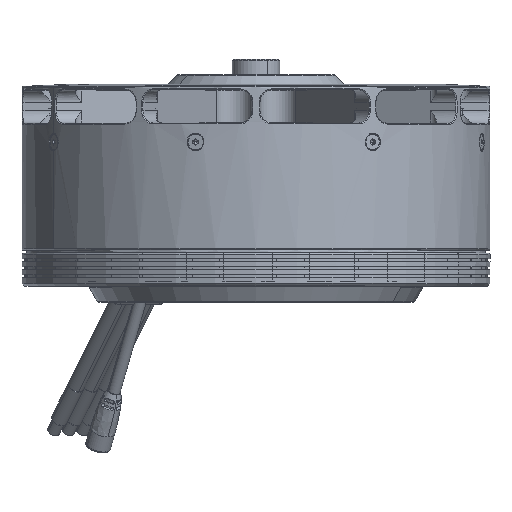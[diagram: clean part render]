
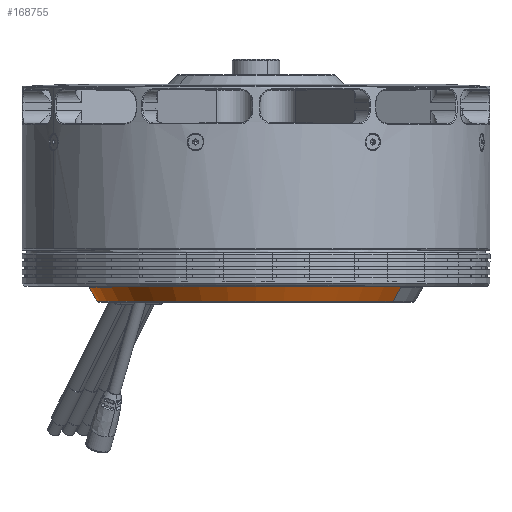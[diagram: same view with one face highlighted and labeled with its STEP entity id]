
A CAD part, top view. The second image highlights one B-rep face of the part: STEP entity #168755.
In plain terms, the highlighted conical face has half-angle 30 degrees and reference radius 50.144 mm.
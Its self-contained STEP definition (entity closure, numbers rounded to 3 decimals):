
#14267 = LINE ( 'NONE', #155658, #96635 ) ;
#15190 = DIRECTION ( 'NONE',  ( 0., 1., 0. ) ) ;
#18799 = EDGE_CURVE ( 'NONE', #30190, #54467, #53178, .T. ) ;
#29120 = DIRECTION ( 'NONE',  ( -0.433, 0.866, -0.25 ) ) ;
#30190 = VERTEX_POINT ( 'NONE', #30930 ) ;
#30930 = CARTESIAN_POINT ( 'NONE',  ( 43.426, -8.45, 25.072 ) ) ;
#31768 = EDGE_CURVE ( 'NONE', #30190, #94652, #14267, .T. ) ;
#33190 = AXIS2_PLACEMENT_3D ( 'NONE', #72880, #170754, #88474 ) ;
#49754 = CIRCLE ( 'NONE', #33190, 52.742 ) ;
#53178 = CIRCLE ( 'NONE', #186111, 50.144 ) ;
#54467 = VERTEX_POINT ( 'NONE', #130547 ) ;
#59154 = CARTESIAN_POINT ( 'NONE',  ( -43.426, -8.45, -25.072 ) ) ;
#62208 = LINE ( 'NONE', #59154, #150370 ) ;
#72880 = CARTESIAN_POINT ( 'NONE',  ( 0., -3.95, 0. ) ) ;
#75504 = DIRECTION ( 'NONE',  ( 0.433, 0.866, 0.25 ) ) ;
#77387 = ORIENTED_EDGE ( 'NONE', *, *, #97509, .T. ) ;
#86698 = EDGE_CURVE ( 'NONE', #54467, #120813, #62208, .T. ) ;
#88474 = DIRECTION ( 'NONE',  ( 0.866, 0., 0.5 ) ) ;
#94652 = VERTEX_POINT ( 'NONE', #192057 ) ;
#95097 = CONICAL_SURFACE ( 'NONE', #121688, 50.144, 0.524 ) ;
#96635 = VECTOR ( 'NONE', #75504, 1000. ) ;
#97509 = EDGE_CURVE ( 'NONE', #94652, #120813, #49754, .T. ) ;
#100206 = ORIENTED_EDGE ( 'NONE', *, *, #86698, .F. ) ;
#101035 = DIRECTION ( 'NONE',  ( -0.866, 0., -0.5 ) ) ;
#109847 = DIRECTION ( 'NONE',  ( 0.866, 0., 0.5 ) ) ;
#115771 = ORIENTED_EDGE ( 'NONE', *, *, #18799, .F. ) ;
#120813 = VERTEX_POINT ( 'NONE', #151823 ) ;
#121688 = AXIS2_PLACEMENT_3D ( 'NONE', #204638, #15190, #101035 ) ;
#121859 = EDGE_LOOP ( 'NONE', ( #115771, #138639, #77387, #100206 ) ) ;
#127562 = DIRECTION ( 'NONE',  ( 0., -1., 0. ) ) ;
#130547 = CARTESIAN_POINT ( 'NONE',  ( -43.426, -8.45, -25.072 ) ) ;
#138639 = ORIENTED_EDGE ( 'NONE', *, *, #31768, .T. ) ;
#150370 = VECTOR ( 'NONE', #29120, 1000. ) ;
#151823 = CARTESIAN_POINT ( 'NONE',  ( -45.676, -3.95, -26.371 ) ) ;
#155658 = CARTESIAN_POINT ( 'NONE',  ( 43.426, -8.45, 25.072 ) ) ;
#158723 = CARTESIAN_POINT ( 'NONE',  ( 0., -8.45, 0. ) ) ;
#168755 = ADVANCED_FACE ( 'NONE', ( #175336 ), #95097, .T. ) ;
#170754 = DIRECTION ( 'NONE',  ( 0., -1., 0. ) ) ;
#175336 = FACE_OUTER_BOUND ( 'NONE', #121859, .T. ) ;
#186111 = AXIS2_PLACEMENT_3D ( 'NONE', #158723, #127562, #109847 ) ;
#192057 = CARTESIAN_POINT ( 'NONE',  ( 45.676, -3.95, 26.371 ) ) ;
#204638 = CARTESIAN_POINT ( 'NONE',  ( 0., -8.45, 0. ) ) ;
